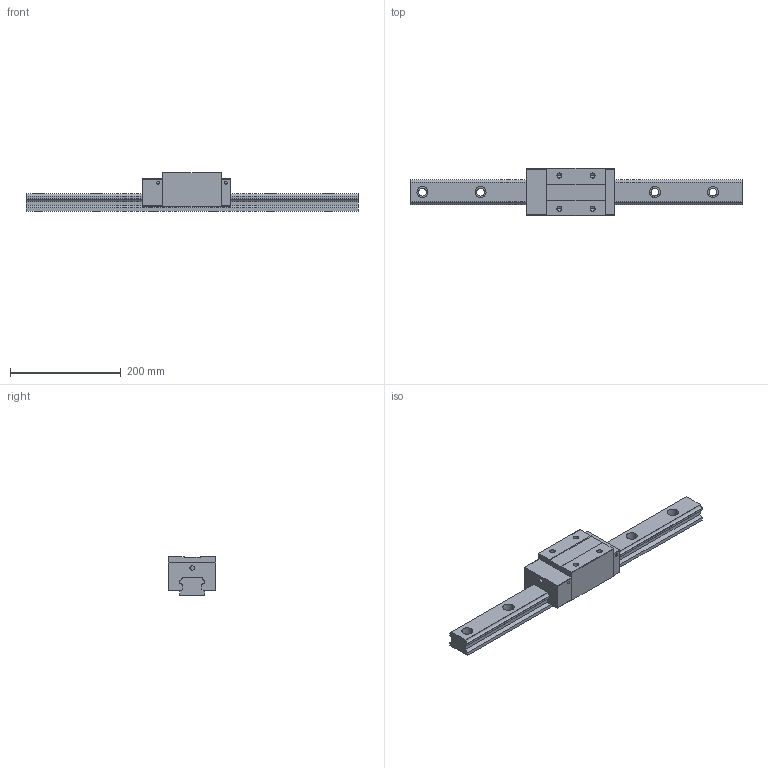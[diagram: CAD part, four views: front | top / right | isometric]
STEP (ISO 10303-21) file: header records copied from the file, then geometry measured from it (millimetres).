
FILE_DESCRIPTION (( 'STEP AP203' ), '1' );
FILE_NAME ('TRH45VL-BN.STEP', '2024-07-10T03:57:51', ( '' ), ( '' ), 'SwSTEP 2.0', 'SolidWorks 2022', '' );
FILE_SCHEMA (( 'CONFIG_CONTROL_DESIGN' ));
Length unit declared in the file: millimetre
Products named in the file (1): TRH45VL-BN
Bounding box: 600 x 85.5 x 70 mm (x, y, z)
Volume: 1340971.9 mm3; surface area: 172270.3 mm2
Topology: 2 solids, 2 shells, 180 faces, 472 edges, 304 vertices
Faces by surface type: plane 84, cylinder 80, cone 16
Entity records: 5607 total; most frequent: DIRECTION 994, CARTESIAN_POINT 949, ORIENTED_EDGE 928, EDGE_CURVE 464, AXIS2_PLACEMENT_3D 349, VERTEX_POINT 304, VECTOR 296, LINE 296
